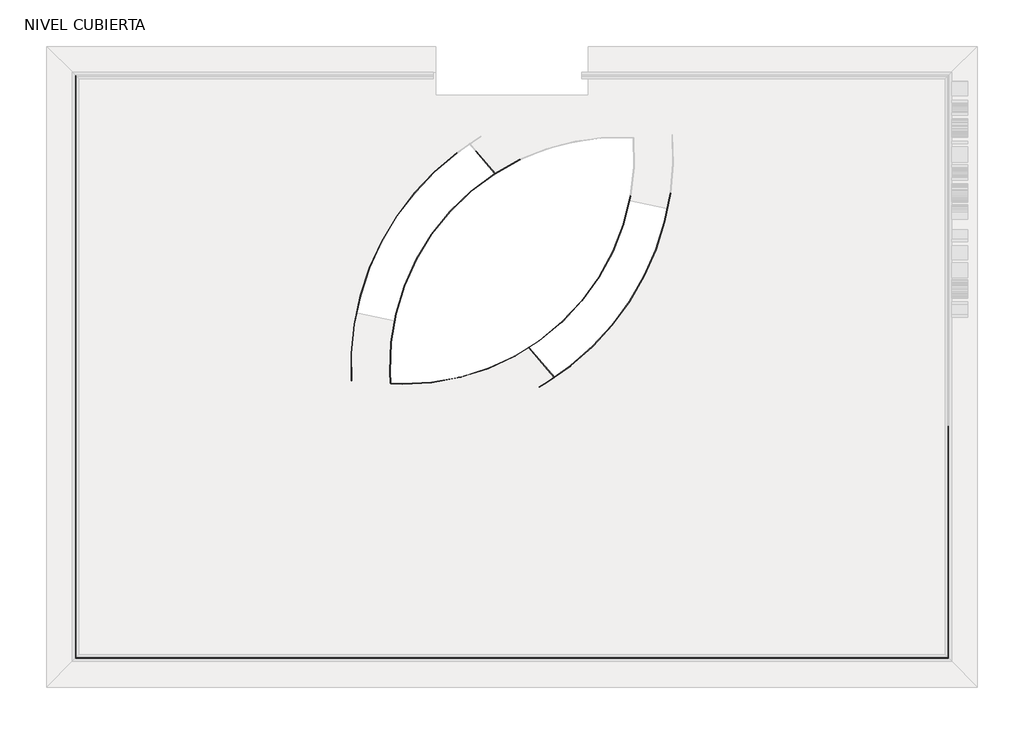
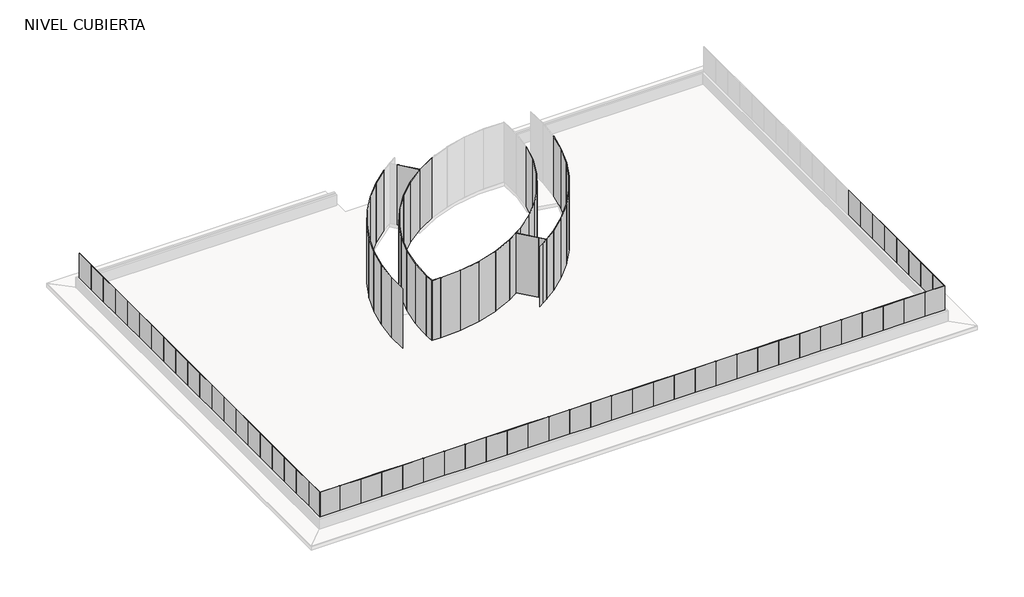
# One storey, part 1 of 2: 123 plates.
"""IFC4 building model written with IfcOpenShell, lengths in millimetres."""

from ifc_helpers import new_model, si_unit, origin, place, context, project, spatial, transform, mapped, element, save
from components import system_panel_5ccbd7a3, system_panel_2392ed23, system_panel_94a1ebf7, system_panel_a79ef9cc, system_panel_f2b8ddce, system_panel_82a90451, system_panel_d16f8cfc, system_panel_5bddcc3b

model = new_model("IFC4")

# Units and contexts
model_context = context("Model", 3, world=origin())
ifc_project = project(units=[si_unit("LENGTHUNIT", "METRE", prefix="MILLI")], contexts=[model_context])

# Site, building, storey
site = spatial("IfcSite", under=ifc_project)
building = spatial("IfcBuilding", under=site)
storey = spatial("IfcBuildingStorey", under=building, Name="NIVEL CUBIERTA", Elevation=13380.0)

# Plates
placement = place(None, origin())
system_panel_shape = system_panel_5ccbd7a3(model_context)
element("IfcPlate", 1, ObjectType="System Panel : CR-BARANDA", at=placement, inside=storey, context=model_context, shape_type="MappedRepresentation", body=[
    mapped(system_panel_shape, transform((-7633.5934748, -7416.0860759, 13880.0), x_axis=(-1.0, 0.0, 0.0), y_axis=(0.0, -1.0, 0.0), z_axis=(0.0, 0.0, 1.0))),
])
element("IfcPlate", 2, ObjectType="System Panel : CR-BARANDA", at=placement, inside=storey, context=model_context, shape_type="MappedRepresentation", body=[
    mapped(system_panel_shape, transform((-6733.5934748, -7416.0860759, 13880.0), x_axis=(-1.0, 0.0, 0.0), y_axis=(0.0, -1.0, 0.0), z_axis=(0.0, 0.0, 1.0))),
])
element("IfcPlate", 3, ObjectType="System Panel : CR-BARANDA", at=placement, inside=storey, context=model_context, shape_type="MappedRepresentation", body=[
    mapped(system_panel_shape, transform((-8533.5934748, -7416.0860759, 13880.0), x_axis=(-1.0, 0.0, 0.0), y_axis=(0.0, -1.0, 0.0), z_axis=(0.0, 0.0, 1.0))),
])
element("IfcPlate", 4, ObjectType="System Panel : CR-BARANDA", at=placement, inside=storey, context=model_context, shape_type="MappedRepresentation", body=[
    mapped(system_panel_shape, transform((-5833.5934748, -7416.0860759, 13880.0), x_axis=(-1.0, 0.0, 0.0), y_axis=(0.0, -1.0, 0.0), z_axis=(0.0, 0.0, 1.0))),
])
element("IfcPlate", 5, ObjectType="System Panel : CR-BARANDA", at=placement, inside=storey, context=model_context, shape_type="MappedRepresentation", body=[
    mapped(system_panel_shape, transform((-9433.5934748, -7416.0860759, 13880.0), x_axis=(-1.0, 0.0, 0.0), y_axis=(0.0, -1.0, 0.0), z_axis=(0.0, 0.0, 1.0))),
])
element("IfcPlate", 6, ObjectType="System Panel : CR-BARANDA", at=placement, inside=storey, context=model_context, shape_type="MappedRepresentation", body=[
    mapped(system_panel_shape, transform((-4933.5934748, -7416.0860759, 13880.0), x_axis=(-1.0, 0.0, 0.0), y_axis=(0.0, -1.0, 0.0), z_axis=(0.0, 0.0, 1.0))),
])
element("IfcPlate", 7, ObjectType="System Panel : CR-BARANDA", at=placement, inside=storey, context=model_context, shape_type="MappedRepresentation", body=[
    mapped(system_panel_shape, transform((-10333.5934748, -7416.0860759, 13880.0), x_axis=(-1.0, 0.0, 0.0), y_axis=(0.0, -1.0, 0.0), z_axis=(0.0, 0.0, 1.0))),
])
element("IfcPlate", 8, ObjectType="System Panel : CR-BARANDA", at=placement, inside=storey, context=model_context, shape_type="MappedRepresentation", body=[
    mapped(system_panel_shape, transform((-4033.5934748, -7416.0860759, 13880.0), x_axis=(-1.0, 0.0, 0.0), y_axis=(0.0, -1.0, 0.0), z_axis=(0.0, 0.0, 1.0))),
])
element("IfcPlate", 9, ObjectType="System Panel : CR-BARANDA", at=placement, inside=storey, context=model_context, shape_type="MappedRepresentation", body=[
    mapped(system_panel_shape, transform((-11233.5934748, -7416.0860759, 13880.0), x_axis=(-1.0, 0.0, 0.0), y_axis=(0.0, -1.0, 0.0), z_axis=(0.0, 0.0, 1.0))),
])
element("IfcPlate", 10, ObjectType="System Panel : CR-BARANDA", at=placement, inside=storey, context=model_context, shape_type="MappedRepresentation", body=[
    mapped(system_panel_shape, transform((-3133.5934748, -7416.0860759, 13880.0), x_axis=(-1.0, 0.0, 0.0), y_axis=(0.0, -1.0, 0.0), z_axis=(0.0, 0.0, 1.0))),
])
element("IfcPlate", 11, ObjectType="System Panel : CR-BARANDA", at=placement, inside=storey, context=model_context, shape_type="MappedRepresentation", body=[
    mapped(system_panel_shape, transform((-12133.5934748, -7416.0860759, 13880.0), x_axis=(-1.0, 0.0, 0.0), y_axis=(0.0, -1.0, 0.0), z_axis=(0.0, 0.0, 1.0))),
])
element("IfcPlate", 12, ObjectType="System Panel : CR-BARANDA", at=placement, inside=storey, context=model_context, shape_type="MappedRepresentation", body=[
    mapped(system_panel_shape, transform((-2233.5934748, -7416.0860759, 13880.0), x_axis=(-1.0, 0.0, 0.0), y_axis=(0.0, -1.0, 0.0), z_axis=(0.0, 0.0, 1.0))),
])
element("IfcPlate", 13, ObjectType="System Panel : CR-BARANDA", at=placement, inside=storey, context=model_context, shape_type="MappedRepresentation", body=[
    mapped(system_panel_shape, transform((-13033.5934748, -7416.0860759, 13880.0), x_axis=(-1.0, 0.0, 0.0), y_axis=(0.0, -1.0, 0.0), z_axis=(0.0, 0.0, 1.0))),
])
element("IfcPlate", 14, ObjectType="System Panel : CR-BARANDA", at=placement, inside=storey, context=model_context, shape_type="MappedRepresentation", body=[
    mapped(system_panel_shape, transform((-1333.5934748, -7416.0860759, 13880.0), x_axis=(-1.0, 0.0, 0.0), y_axis=(0.0, -1.0, 0.0), z_axis=(0.0, 0.0, 1.0))),
])
element("IfcPlate", 15, ObjectType="System Panel : CR-BARANDA", at=placement, inside=storey, context=model_context, shape_type="MappedRepresentation", body=[
    mapped(system_panel_shape, transform((-13933.5934748, -7416.0860759, 13880.0), x_axis=(-1.0, 0.0, 0.0), y_axis=(0.0, -1.0, 0.0), z_axis=(0.0, 0.0, 1.0))),
])
element("IfcPlate", 16, ObjectType="System Panel : CR-BARANDA", at=placement, inside=storey, context=model_context, shape_type="MappedRepresentation", body=[
    mapped(system_panel_shape, transform((-433.5934748, -7416.0860759, 13880.0), x_axis=(-1.0, 0.0, 0.0), y_axis=(0.0, -1.0, 0.0), z_axis=(0.0, 0.0, 1.0))),
])
element("IfcPlate", 17, ObjectType="System Panel : CR-BARANDA", at=placement, inside=storey, context=model_context, shape_type="MappedRepresentation", body=[
    mapped(system_panel_shape, transform((-14833.5934748, -7416.0860759, 13880.0), x_axis=(-1.0, 0.0, 0.0), y_axis=(0.0, -1.0, 0.0), z_axis=(0.0, 0.0, 1.0))),
])
element("IfcPlate", 18, ObjectType="System Panel : CR-BARANDA", at=placement, inside=storey, context=model_context, shape_type="MappedRepresentation", body=[
    mapped(system_panel_shape, transform((466.4065252, -7416.0860759, 13880.0), x_axis=(-1.0, 0.0, 0.0), y_axis=(0.0, -1.0, 0.0), z_axis=(0.0, 0.0, 1.0))),
])
element("IfcPlate", 19, ObjectType="System Panel : CR-BARANDA", at=placement, inside=storey, context=model_context, shape_type="MappedRepresentation", body=[
    mapped(system_panel_shape, transform((-15733.5934748, -7416.0860759, 13880.0), x_axis=(-1.0, 0.0, 0.0), y_axis=(0.0, -1.0, 0.0), z_axis=(0.0, 0.0, 1.0))),
])
element("IfcPlate", 20, ObjectType="System Panel : CR-BARANDA", at=placement, inside=storey, context=model_context, shape_type="MappedRepresentation", body=[
    mapped(system_panel_shape, transform((1366.4065252, -7416.0860759, 13880.0), x_axis=(-1.0, 0.0, 0.0), y_axis=(0.0, -1.0, 0.0), z_axis=(0.0, 0.0, 1.0))),
])
element("IfcPlate", 21, ObjectType="System Panel : CR-BARANDA", at=placement, inside=storey, context=model_context, shape_type="MappedRepresentation", body=[
    mapped(system_panel_shape, transform((-16633.5934748, -7416.0860759, 13880.0), x_axis=(-1.0, 0.0, 0.0), y_axis=(0.0, -1.0, 0.0), z_axis=(0.0, 0.0, 1.0))),
])
element("IfcPlate", 22, ObjectType="System Panel : CR-BARANDA", at=placement, inside=storey, context=model_context, shape_type="MappedRepresentation", body=[
    mapped(system_panel_shape, transform((2266.4065252, -7416.0860759, 13880.0), x_axis=(-1.0, 0.0, 0.0), y_axis=(0.0, -1.0, 0.0), z_axis=(0.0, 0.0, 1.0))),
])
element("IfcPlate", 23, ObjectType="System Panel : CR-BARANDA", at=placement, inside=storey, context=model_context, shape_type="MappedRepresentation", body=[
    mapped(system_panel_shape, transform((-17533.5934748, -7416.0860759, 13880.0), x_axis=(-1.0, 0.0, 0.0), y_axis=(0.0, -1.0, 0.0), z_axis=(0.0, 0.0, 1.0))),
])
element("IfcPlate", 24, ObjectType="System Panel : CR-BARANDA", at=placement, inside=storey, context=model_context, shape_type="MappedRepresentation", body=[
    mapped(system_panel_shape, transform((3166.4065252, -7416.0860759, 13880.0), x_axis=(-1.0, 0.0, 0.0), y_axis=(0.0, -1.0, 0.0), z_axis=(0.0, 0.0, 1.0))),
])
element("IfcPlate", 25, ObjectType="System Panel : CR-BARANDA", at=placement, inside=storey, context=model_context, shape_type="MappedRepresentation", body=[
    mapped(system_panel_shape, transform((-18433.5934748, -7416.0860759, 13880.0), x_axis=(-1.0, 0.0, 0.0), y_axis=(0.0, -1.0, 0.0), z_axis=(0.0, 0.0, 1.0))),
])
element("IfcPlate", 26, ObjectType="System Panel : CR-BARANDA", at=placement, inside=storey, context=model_context, shape_type="MappedRepresentation", body=[
    mapped(system_panel_shape, transform((4066.4065252, -7416.0860759, 13880.0), x_axis=(-1.0, 0.0, 0.0), y_axis=(0.0, -1.0, 0.0), z_axis=(0.0, 0.0, 1.0))),
])
element("IfcPlate", 27, ObjectType="System Panel : CR-BARANDA", at=placement, inside=storey, context=model_context, shape_type="MappedRepresentation", body=[
    mapped(system_panel_shape, transform((-19333.5934748, -7416.0860759, 13880.0), x_axis=(-1.0, 0.0, 0.0), y_axis=(0.0, -1.0, 0.0), z_axis=(0.0, 0.0, 1.0))),
])
element("IfcPlate", 28, ObjectType="System Panel : CR-BARANDA", at=placement, inside=storey, context=model_context, shape_type="MappedRepresentation", body=[
    mapped(system_panel_shape, transform((4966.4065252, -7416.0860759, 13880.0), x_axis=(-1.0, 0.0, 0.0), y_axis=(0.0, -1.0, 0.0), z_axis=(0.0, 0.0, 1.0))),
])
element("IfcPlate", 29, ObjectType="System Panel : CR-BARANDA", at=placement, inside=storey, context=model_context, shape_type="MappedRepresentation", body=[
    mapped(system_panel_shape, transform((6266.4065252, -716.0860763, 13880.0), x_axis=(0.0, -1.0, 0.0), y_axis=(1.0, 0.0, 0.0), z_axis=(0.0, 0.0, 1.0))),
])
element("IfcPlate", 30, ObjectType="System Panel : CR-BARANDA", at=placement, inside=storey, context=model_context, shape_type="MappedRepresentation", body=[
    mapped(system_panel_shape, transform((6266.4065252, -1616.0860763, 13880.0), x_axis=(0.0, -1.0, 0.0), y_axis=(1.0, 0.0, 0.0), z_axis=(0.0, 0.0, 1.0))),
])
element("IfcPlate", 31, ObjectType="System Panel : CR-BARANDA", at=placement, inside=storey, context=model_context, shape_type="MappedRepresentation", body=[
    mapped(system_panel_shape, transform((6266.4065252, -2516.0860763, 13880.0), x_axis=(0.0, -1.0, 0.0), y_axis=(1.0, 0.0, 0.0), z_axis=(0.0, 0.0, 1.0))),
])
element("IfcPlate", 32, ObjectType="System Panel : CR-BARANDA", at=placement, inside=storey, context=model_context, shape_type="MappedRepresentation", body=[
    mapped(system_panel_shape, transform((6266.4065252, -3416.0860763, 13880.0), x_axis=(0.0, -1.0, 0.0), y_axis=(1.0, 0.0, 0.0), z_axis=(0.0, 0.0, 1.0))),
])
element("IfcPlate", 33, ObjectType="System Panel : CR-BARANDA", at=placement, inside=storey, context=model_context, shape_type="MappedRepresentation", body=[
    mapped(system_panel_shape, transform((6266.4065252, -4316.0860763, 13880.0), x_axis=(0.0, -1.0, 0.0), y_axis=(1.0, 0.0, 0.0), z_axis=(0.0, 0.0, 1.0))),
])
element("IfcPlate", 34, ObjectType="System Panel : CR-BARANDA", at=placement, inside=storey, context=model_context, shape_type="MappedRepresentation", body=[
    mapped(system_panel_shape, transform((6266.4065252, -5216.0860763, 13880.0), x_axis=(0.0, -1.0, 0.0), y_axis=(1.0, 0.0, 0.0), z_axis=(0.0, 0.0, 1.0))),
])
element("IfcPlate", 35, ObjectType="System Panel : CR-BARANDA", at=placement, inside=storey, context=model_context, shape_type="MappedRepresentation", body=[
    mapped(system_panel_shape, transform((6266.4065252, -6116.0860763, 13880.0), x_axis=(0.0, -1.0, 0.0), y_axis=(1.0, 0.0, 0.0), z_axis=(0.0, 0.0, 1.0))),
])
element("IfcPlate", 36, ObjectType="System Panel : CR-BARANDA", at=placement, inside=storey, context=model_context, shape_type="MappedRepresentation", body=[
    mapped(system_panel_shape, transform((-20633.5934748, 10083.9139239, 13880.0), x_axis=(0.0, -1.0, 0.0), y_axis=(1.0, 0.0, 0.0), z_axis=(0.0, 0.0, 1.0))),
])
element("IfcPlate", 37, ObjectType="System Panel : CR-BARANDA", at=placement, inside=storey, context=model_context, shape_type="MappedRepresentation", body=[
    mapped(system_panel_shape, transform((-20633.5934748, 9183.9139237, 13880.0), x_axis=(0.0, -1.0, 0.0), y_axis=(1.0, 0.0, 0.0), z_axis=(0.0, 0.0, 1.0))),
])
element("IfcPlate", 38, ObjectType="System Panel : CR-BARANDA", at=placement, inside=storey, context=model_context, shape_type="MappedRepresentation", body=[
    mapped(system_panel_shape, transform((-20633.5934748, 8283.9139237, 13880.0), x_axis=(0.0, -1.0, 0.0), y_axis=(1.0, 0.0, 0.0), z_axis=(0.0, 0.0, 1.0))),
])
element("IfcPlate", 39, ObjectType="System Panel : CR-BARANDA", at=placement, inside=storey, context=model_context, shape_type="MappedRepresentation", body=[
    mapped(system_panel_shape, transform((-20633.5934748, 7383.9139237, 13880.0), x_axis=(0.0, -1.0, 0.0), y_axis=(1.0, 0.0, 0.0), z_axis=(0.0, 0.0, 1.0))),
])
element("IfcPlate", 40, ObjectType="System Panel : CR-BARANDA", at=placement, inside=storey, context=model_context, shape_type="MappedRepresentation", body=[
    mapped(system_panel_shape, transform((-20633.5934748, 6483.9139237, 13880.0), x_axis=(0.0, -1.0, 0.0), y_axis=(1.0, 0.0, 0.0), z_axis=(0.0, 0.0, 1.0))),
])
element("IfcPlate", 41, ObjectType="System Panel : CR-BARANDA", at=placement, inside=storey, context=model_context, shape_type="MappedRepresentation", body=[
    mapped(system_panel_shape, transform((-20633.5934748, 5583.9139237, 13880.0), x_axis=(0.0, -1.0, 0.0), y_axis=(1.0, 0.0, 0.0), z_axis=(0.0, 0.0, 1.0))),
])
element("IfcPlate", 42, ObjectType="System Panel : CR-BARANDA", at=placement, inside=storey, context=model_context, shape_type="MappedRepresentation", body=[
    mapped(system_panel_shape, transform((-20633.5934748, 4683.9139237, 13880.0), x_axis=(0.0, -1.0, 0.0), y_axis=(1.0, 0.0, 0.0), z_axis=(0.0, 0.0, 1.0))),
])
element("IfcPlate", 43, ObjectType="System Panel : CR-BARANDA", at=placement, inside=storey, context=model_context, shape_type="MappedRepresentation", body=[
    mapped(system_panel_shape, transform((-20633.5934748, 3783.9139237, 13880.0), x_axis=(0.0, -1.0, 0.0), y_axis=(1.0, 0.0, 0.0), z_axis=(0.0, 0.0, 1.0))),
])
element("IfcPlate", 44, ObjectType="System Panel : CR-BARANDA", at=placement, inside=storey, context=model_context, shape_type="MappedRepresentation", body=[
    mapped(system_panel_shape, transform((-20633.5934748, 2883.9139237, 13880.0), x_axis=(0.0, -1.0, 0.0), y_axis=(1.0, 0.0, 0.0), z_axis=(0.0, 0.0, 1.0))),
])
element("IfcPlate", 45, ObjectType="System Panel : CR-BARANDA", at=placement, inside=storey, context=model_context, shape_type="MappedRepresentation", body=[
    mapped(system_panel_shape, transform((-20633.5934748, 1983.9139237, 13880.0), x_axis=(0.0, -1.0, 0.0), y_axis=(1.0, 0.0, 0.0), z_axis=(0.0, 0.0, 1.0))),
])
element("IfcPlate", 46, ObjectType="System Panel : CR-BARANDA", at=placement, inside=storey, context=model_context, shape_type="MappedRepresentation", body=[
    mapped(system_panel_shape, transform((-20633.5934748, 1083.9139237, 13880.0), x_axis=(0.0, -1.0, 0.0), y_axis=(1.0, 0.0, 0.0), z_axis=(0.0, 0.0, 1.0))),
])
element("IfcPlate", 47, ObjectType="System Panel : CR-BARANDA", at=placement, inside=storey, context=model_context, shape_type="MappedRepresentation", body=[
    mapped(system_panel_shape, transform((-20633.5934748, 183.9139237, 13880.0), x_axis=(0.0, -1.0, 0.0), y_axis=(1.0, 0.0, 0.0), z_axis=(0.0, 0.0, 1.0))),
])
element("IfcPlate", 48, ObjectType="System Panel : CR-BARANDA", at=placement, inside=storey, context=model_context, shape_type="MappedRepresentation", body=[
    mapped(system_panel_shape, transform((-20633.5934748, -716.0860763, 13880.0), x_axis=(0.0, -1.0, 0.0), y_axis=(1.0, 0.0, 0.0), z_axis=(0.0, 0.0, 1.0))),
])
element("IfcPlate", 49, ObjectType="System Panel : CR-BARANDA", at=placement, inside=storey, context=model_context, shape_type="MappedRepresentation", body=[
    mapped(system_panel_shape, transform((-20633.5934748, -1616.0860763, 13880.0), x_axis=(0.0, -1.0, 0.0), y_axis=(1.0, 0.0, 0.0), z_axis=(0.0, 0.0, 1.0))),
])
element("IfcPlate", 50, ObjectType="System Panel : CR-BARANDA", at=placement, inside=storey, context=model_context, shape_type="MappedRepresentation", body=[
    mapped(system_panel_shape, transform((-20633.5934748, -2516.0860763, 13880.0), x_axis=(0.0, -1.0, 0.0), y_axis=(1.0, 0.0, 0.0), z_axis=(0.0, 0.0, 1.0))),
])
element("IfcPlate", 51, ObjectType="System Panel : CR-BARANDA", at=placement, inside=storey, context=model_context, shape_type="MappedRepresentation", body=[
    mapped(system_panel_shape, transform((-20633.5934748, -3416.0860763, 13880.0), x_axis=(0.0, -1.0, 0.0), y_axis=(1.0, 0.0, 0.0), z_axis=(0.0, 0.0, 1.0))),
])
element("IfcPlate", 52, ObjectType="System Panel : CR-BARANDA", at=placement, inside=storey, context=model_context, shape_type="MappedRepresentation", body=[
    mapped(system_panel_shape, transform((-20633.5934748, -4316.0860763, 13880.0), x_axis=(0.0, -1.0, 0.0), y_axis=(1.0, 0.0, 0.0), z_axis=(0.0, 0.0, 1.0))),
])
element("IfcPlate", 53, ObjectType="System Panel : CR-BARANDA", at=placement, inside=storey, context=model_context, shape_type="MappedRepresentation", body=[
    mapped(system_panel_shape, transform((-20633.5934748, -5216.0860763, 13880.0), x_axis=(0.0, -1.0, 0.0), y_axis=(1.0, 0.0, 0.0), z_axis=(0.0, 0.0, 1.0))),
])
element("IfcPlate", 54, ObjectType="System Panel : CR-BARANDA", at=placement, inside=storey, context=model_context, shape_type="MappedRepresentation", body=[
    mapped(system_panel_shape, transform((-20633.5934748, -6116.0860763, 13880.0), x_axis=(0.0, -1.0, 0.0), y_axis=(1.0, 0.0, 0.0), z_axis=(0.0, 0.0, 1.0))),
])
system_panel_2_shape = system_panel_2392ed23(model_context)
element("IfcPlate", 55, ObjectType="System Panel : CR-BARANDA", at=placement, inside=storey, context=model_context, shape_type="MappedRepresentation", body=[
    mapped(system_panel_2_shape, transform((5841.4065252, -7416.0860759, 13880.0), x_axis=(-1.0, 0.0, 0.0), y_axis=(0.0, -1.0, 0.0), z_axis=(0.0, 0.0, 1.0))),
])
element("IfcPlate", 56, ObjectType="System Panel : CR-BARANDA", at=placement, inside=storey, context=model_context, shape_type="MappedRepresentation", body=[
    mapped(system_panel_2_shape, transform((-20208.5934748, -7416.0860759, 13880.0), x_axis=(-1.0, 0.0, 0.0), y_axis=(0.0, -1.0, 0.0), z_axis=(0.0, 0.0, 1.0))),
])
element("IfcPlate", 57, ObjectType="System Panel : CR-BARANDA", at=placement, inside=storey, context=model_context, shape_type="MappedRepresentation", body=[
    mapped(system_panel_2_shape, transform((6266.4065252, -6991.0860761, 13880.0), x_axis=(0.0, -1.0, 0.0), y_axis=(1.0, 0.0, 0.0), z_axis=(0.0, 0.0, 1.0))),
])
system_panel_3_shape = system_panel_94a1ebf7(model_context)
element("IfcPlate", 58, ObjectType="System Panel : CR-BARANDA", at=placement, inside=storey, context=model_context, shape_type="MappedRepresentation", body=[
    mapped(system_panel_3_shape, transform((-20633.5934748, -6991.0860761, 13880.0), x_axis=(0.0, -1.0, 0.0), y_axis=(1.0, 0.0, 0.0), z_axis=(0.0, 0.0, 1.0))),
])
system_panel_4_shape = system_panel_a79ef9cc(model_context)
element("IfcPlate", 59, ObjectType="System Panel : CR-BARANDA", at=placement, inside=storey, context=model_context, shape_type="MappedRepresentation", body=[
    mapped(system_panel_4_shape, transform((-5977.2482203, 1344.4572301, 13380.0), x_axis=(0.6464171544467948, -0.7629841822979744, 0.0), y_axis=(0.7629841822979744, 0.6464171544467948, 0.0), z_axis=(0.0, 0.0, 1.0))),
])
system_panel_5_shape = system_panel_f2b8ddce(model_context)
element("IfcPlate", 60, ObjectType="System Panel : CR-BARANDA", at=placement, inside=storey, context=model_context, shape_type="MappedRepresentation", body=[
    mapped(system_panel_5_shape, transform((-12137.6471122, 1554.5809106, 13380.0), x_axis=(0.004029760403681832, -0.9999918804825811, 0.0), y_axis=(0.9999918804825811, 0.004029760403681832, 0.0), z_axis=(0.0, 0.0, 1.0))),
])
system_panel_6_shape = system_panel_82a90451(model_context)
element("IfcPlate", 61, ObjectType="System Panel : CR-BARANDA", at=placement, inside=storey, context=model_context, shape_type="MappedRepresentation", body=[
    mapped(system_panel_6_shape, transform((-6230.2657655, 1004.3095919, 13380.0), x_axis=(-0.8579965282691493, -0.5136554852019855, 0.0), y_axis=(0.5136554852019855, -0.8579965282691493, 0.0), z_axis=(0.0, 0.0, 1.0))),
])
system_panel_7_shape = system_panel_d16f8cfc(model_context)
element("IfcPlate", 62, ObjectType="System Panel : CR-BARANDA", at=placement, inside=storey, context=model_context, shape_type="MappedRepresentation", body=[
    mapped(system_panel_7_shape, transform((-7331.2063026, 7728.1154532, 13380.0), x_axis=(-0.8730074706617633, -0.4877068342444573, 0.0), y_axis=(0.4877068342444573, -0.8730074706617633, 0.0), z_axis=(0.0, 0.0, 1.0))),
])
element("IfcPlate", 63, ObjectType="System Panel : CR-BARANDA", at=placement, inside=storey, context=model_context, shape_type="MappedRepresentation", body=[
    mapped(system_panel_7_shape, transform((-8085.741745, 7240.9048287, 13380.0), x_axis=(-0.8037379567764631, -0.5949834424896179, 0.0), y_axis=(0.5949834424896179, -0.8037379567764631, 0.0), z_axis=(0.0, 0.0, 1.0))),
])
element("IfcPlate", 64, ObjectType="System Panel : CR-BARANDA", at=placement, inside=storey, context=model_context, shape_type="MappedRepresentation", body=[
    mapped(system_panel_7_shape, transform((-8772.0368429, 6661.5112103, 13380.0), x_axis=(-0.7213622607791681, -0.6925579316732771, 0.0), y_axis=(0.6925579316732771, -0.7213622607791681, 0.0), z_axis=(0.0, 0.0, 1.0))),
])
element("IfcPlate", 65, ObjectType="System Panel : CR-BARANDA", at=placement, inside=storey, context=model_context, shape_type="MappedRepresentation", body=[
    mapped(system_panel_7_shape, transform((-9378.9005004, 5999.3825011, 13380.0), x_axis=(-0.6272236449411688, -0.7788391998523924, 0.0), y_axis=(0.7788391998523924, -0.6272236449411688, 0.0), z_axis=(0.0, 0.0, 1.0))),
])
element("IfcPlate", 66, ObjectType="System Panel : CR-BARANDA", at=placement, inside=storey, context=model_context, shape_type="MappedRepresentation", body=[
    mapped(system_panel_7_shape, transform((-9896.4368735, 5265.3157269, 13380.0), x_axis=(-0.5228571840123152, -0.8524202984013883, 0.0), y_axis=(0.8524202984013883, -0.5228571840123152, 0.0), z_axis=(0.0, 0.0, 1.0))),
])
element("IfcPlate", 67, ObjectType="System Panel : CR-BARANDA", at=placement, inside=storey, context=model_context, shape_type="MappedRepresentation", body=[
    mapped(system_panel_7_shape, transform((-10316.2067363, 4471.2809741, 13380.0), x_axis=(-0.40996473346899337, -0.9121013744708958, 0.0), y_axis=(0.9121013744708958, -0.40996473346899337, 0.0), z_axis=(0.0, 0.0, 1.0))),
])
element("IfcPlate", 68, ObjectType="System Panel : CR-BARANDA", at=placement, inside=storey, context=model_context, shape_type="MappedRepresentation", body=[
    mapped(system_panel_7_shape, transform((-10631.3650965, 3630.2261992, 13380.0), x_axis=(-0.2903871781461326, -0.9569092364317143, 0.0), y_axis=(0.9569092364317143, -0.2903871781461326, 0.0), z_axis=(0.0, 0.0, 1.0))),
])
element("IfcPlate", 69, ObjectType="System Panel : CR-BARANDA", at=placement, inside=storey, context=model_context, shape_type="MappedRepresentation", body=[
    mapped(system_panel_7_shape, transform((-10836.7728129, 2755.8660923, 13380.0), x_axis=(-0.16607441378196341, -0.9861132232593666, 0.0), y_axis=(0.9861132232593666, -0.16607441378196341, 0.0), z_axis=(0.0, 0.0, 1.0))),
])
element("IfcPlate", 70, ObjectType="System Panel : CR-BARANDA", at=placement, inside=storey, context=model_context, shape_type="MappedRepresentation", body=[
    mapped(system_panel_7_shape, transform((-10929.0803971, 1862.4584383, 13380.0), x_axis=(-0.03905355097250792, -0.9992371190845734, 0.0), y_axis=(0.9992371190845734, -0.03905355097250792, 0.0), z_axis=(0.0, 0.0, 1.0))),
])
element("IfcPlate", 71, ObjectType="System Panel : CR-BARANDA", at=placement, inside=storey, context=model_context, shape_type="MappedRepresentation", body=[
    mapped(system_panel_7_shape, transform((-7331.2063026, 7728.1154532, 13380.0), x_axis=(-0.8730074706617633, -0.4877068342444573, 0.0), y_axis=(0.4877068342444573, -0.8730074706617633, 0.0), z_axis=(0.0, 0.0, 1.0))),
])
element("IfcPlate", 72, ObjectType="System Panel : CR-BARANDA", at=placement, inside=storey, context=model_context, shape_type="MappedRepresentation", body=[
    mapped(system_panel_7_shape, transform((-8085.741745, 7240.9048287, 13380.0), x_axis=(-0.8037379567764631, -0.5949834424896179, 0.0), y_axis=(0.5949834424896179, -0.8037379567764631, 0.0), z_axis=(0.0, 0.0, 1.0))),
])
element("IfcPlate", 73, ObjectType="System Panel : CR-BARANDA", at=placement, inside=storey, context=model_context, shape_type="MappedRepresentation", body=[
    mapped(system_panel_7_shape, transform((-8772.0368429, 6661.5112103, 13380.0), x_axis=(-0.7213622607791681, -0.6925579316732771, 0.0), y_axis=(0.6925579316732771, -0.7213622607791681, 0.0), z_axis=(0.0, 0.0, 1.0))),
])
element("IfcPlate", 74, ObjectType="System Panel : CR-BARANDA", at=placement, inside=storey, context=model_context, shape_type="MappedRepresentation", body=[
    mapped(system_panel_7_shape, transform((-9378.9005004, 5999.3825011, 13380.0), x_axis=(-0.6272236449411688, -0.7788391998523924, 0.0), y_axis=(0.7788391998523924, -0.6272236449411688, 0.0), z_axis=(0.0, 0.0, 1.0))),
])
element("IfcPlate", 75, ObjectType="System Panel : CR-BARANDA", at=placement, inside=storey, context=model_context, shape_type="MappedRepresentation", body=[
    mapped(system_panel_7_shape, transform((-9896.4368735, 5265.3157269, 13380.0), x_axis=(-0.5228571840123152, -0.8524202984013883, 0.0), y_axis=(0.8524202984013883, -0.5228571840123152, 0.0), z_axis=(0.0, 0.0, 1.0))),
])
element("IfcPlate", 76, ObjectType="System Panel : CR-BARANDA", at=placement, inside=storey, context=model_context, shape_type="MappedRepresentation", body=[
    mapped(system_panel_7_shape, transform((-10316.2067363, 4471.2809741, 13380.0), x_axis=(-0.40996473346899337, -0.9121013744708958, 0.0), y_axis=(0.9121013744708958, -0.40996473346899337, 0.0), z_axis=(0.0, 0.0, 1.0))),
])
element("IfcPlate", 77, ObjectType="System Panel : CR-BARANDA", at=placement, inside=storey, context=model_context, shape_type="MappedRepresentation", body=[
    mapped(system_panel_7_shape, transform((-10631.3650965, 3630.2261992, 13380.0), x_axis=(-0.2903871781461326, -0.9569092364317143, 0.0), y_axis=(0.9569092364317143, -0.2903871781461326, 0.0), z_axis=(0.0, 0.0, 1.0))),
])
element("IfcPlate", 78, ObjectType="System Panel : CR-BARANDA", at=placement, inside=storey, context=model_context, shape_type="MappedRepresentation", body=[
    mapped(system_panel_7_shape, transform((-10836.7728129, 2755.8660923, 13380.0), x_axis=(-0.16607441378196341, -0.9861132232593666, 0.0), y_axis=(0.9861132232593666, -0.16607441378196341, 0.0), z_axis=(0.0, 0.0, 1.0))),
])
element("IfcPlate", 79, ObjectType="System Panel : CR-BARANDA", at=placement, inside=storey, context=model_context, shape_type="MappedRepresentation", body=[
    mapped(system_panel_7_shape, transform((-10929.0803971, 1862.4584383, 13380.0), x_axis=(-0.03905355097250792, -0.9992371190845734, 0.0), y_axis=(0.9992371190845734, -0.03905355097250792, 0.0), z_axis=(0.0, 0.0, 1.0))),
])
element("IfcPlate", 80, ObjectType="System Panel : CR-BARANDA", at=placement, inside=storey, context=model_context, shape_type="MappedRepresentation", body=[
    mapped(system_panel_7_shape, transform((-9232.3284679, 7864.8499826, 13380.0), x_axis=(-0.7621838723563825, -0.647360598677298, 0.0), y_axis=(0.647360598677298, -0.7621838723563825, 0.0), z_axis=(0.0, 0.0, 1.0))),
])
element("IfcPlate", 81, ObjectType="System Panel : CR-BARANDA", at=placement, inside=storey, context=model_context, shape_type="MappedRepresentation", body=[
    mapped(system_panel_7_shape, transform((-9884.5118943, 7246.5898013, 13380.0), x_axis=(-0.6871126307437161, -0.7265509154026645, 0.0), y_axis=(0.7265509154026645, -0.6871126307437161, 0.0), z_axis=(0.0, 0.0, 1.0))),
])
element("IfcPlate", 82, ObjectType="System Panel : CR-BARANDA", at=placement, inside=storey, context=model_context, shape_type="MappedRepresentation", body=[
    mapped(system_panel_7_shape, transform((-10465.4496133, 6560.9512375, 13380.0), x_axis=(-0.603860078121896, -0.7970903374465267, 0.0), y_axis=(0.7970903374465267, -0.603860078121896, 0.0), z_axis=(0.0, 0.0, 1.0))),
])
element("IfcPlate", 83, ObjectType="System Panel : CR-BARANDA", at=placement, inside=storey, context=model_context, shape_type="MappedRepresentation", body=[
    mapped(system_panel_7_shape, transform((-10968.2245171, 5816.0980509, 13380.0), x_axis=(-0.513417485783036, -0.8581389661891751, 0.0), y_axis=(0.8581389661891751, -0.513417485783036, 0.0), z_axis=(0.0, 0.0, 1.0))),
])
element("IfcPlate", 84, ObjectType="System Panel : CR-BARANDA", at=placement, inside=storey, context=model_context, shape_type="MappedRepresentation", body=[
    mapped(system_panel_7_shape, transform((-11386.8501666, 5020.8990575, 13380.0), x_axis=(-0.4168617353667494, -0.908969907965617, 0.0), y_axis=(0.908969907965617, -0.4168617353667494, 0.0), z_axis=(0.0, 0.0, 1.0))),
])
element("IfcPlate", 85, ObjectType="System Panel : CR-BARANDA", at=placement, inside=storey, context=model_context, shape_type="MappedRepresentation", body=[
    mapped(system_panel_7_shape, transform((-11716.342071, 4184.8225308, 13380.0), x_axis=(-0.3153424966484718, -0.9489779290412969, 0.0), y_axis=(0.9489779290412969, -0.3153424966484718, 0.0), z_axis=(0.0, 0.0, 1.0))),
])
element("IfcPlate", 86, ObjectType="System Panel : CR-BARANDA", at=placement, inside=storey, context=model_context, shape_type="MappedRepresentation", body=[
    mapped(system_panel_7_shape, transform((-11952.7770369, 3317.8234649, 13380.0), x_axis=(-0.21006853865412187, -0.9776866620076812, 0.0), y_axis=(0.9776866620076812, -0.21006853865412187, 0.0), z_axis=(0.0, 0.0, 1.0))),
])
element("IfcPlate", 87, ObjectType="System Panel : CR-BARANDA", at=placement, inside=storey, context=model_context, shape_type="MappedRepresentation", body=[
    mapped(system_panel_7_shape, transform((-6368.0099616, 1805.6842035, 13380.0), x_axis=(0.6464171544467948, -0.7629841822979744, 0.0), y_axis=(0.7629841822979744, 0.6464171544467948, 0.0), z_axis=(0.0, 0.0, 1.0))),
])
element("IfcPlate", 88, ObjectType="System Panel : CR-BARANDA", at=placement, inside=storey, context=model_context, shape_type="MappedRepresentation", body=[
    mapped(system_panel_7_shape, transform((-7999.1769881, 7862.1436446, 13380.0), x_axis=(-0.6464171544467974, 0.7629841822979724, 0.0), y_axis=(-0.7629841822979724, -0.6464171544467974, 0.0), z_axis=(0.0, 0.0, 1.0))),
])
element("IfcPlate", 89, ObjectType="System Panel : CR-BARANDA", at=placement, inside=storey, context=model_context, shape_type="MappedRepresentation", body=[
    mapped(system_panel_7_shape, transform((-12093.339881, 2430.225042, 13380.0), x_axis=(-0.10229333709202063, -0.9947542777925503, 0.0), y_axis=(0.9947542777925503, -0.10229333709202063, 0.0), z_axis=(0.0, 0.0, 1.0))),
])
system_panel_8_shape = system_panel_5bddcc3b(model_context)
element("IfcPlate", 90, ObjectType="System Panel : CR-BARANDA", at=placement, inside=storey, context=model_context, shape_type="MappedRepresentation", body=[
    mapped(system_panel_8_shape, transform((-10937.3624941, 1230.0346436, 13380.0), x_axis=(0.05077508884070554, -0.9987101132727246, 0.0), y_axis=(0.9987101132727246, 0.05077508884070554, 0.0), z_axis=(0.0, 0.0, 1.0))),
])
element("IfcPlate", 91, ObjectType="System Panel : CR-BARANDA", at=placement, inside=storey, context=model_context, shape_type="MappedRepresentation", body=[
    mapped(system_panel_8_shape, transform((-10937.3624941, 1230.0346436, 13380.0), x_axis=(0.05077508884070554, -0.9987101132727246, 0.0), y_axis=(0.9987101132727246, 0.05077508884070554, 0.0), z_axis=(0.0, 0.0, 1.0))),
])
element("IfcPlate", 92, ObjectType="System Panel : CR-BARANDA", at=placement, inside=storey, context=model_context, shape_type="MappedRepresentation", body=[
    mapped(system_panel_7_shape, transform((-3638.8664144, 6389.7580529, 13380.0), x_axis=(-0.2403190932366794, -0.9706939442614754, 0.0), y_axis=(0.9706939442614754, -0.2403190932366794, 0.0), z_axis=(0.0, 0.0, 1.0))),
])
element("IfcPlate", 93, ObjectType="System Panel : CR-BARANDA", at=placement, inside=storey, context=model_context, shape_type="MappedRepresentation", body=[
    mapped(system_panel_7_shape, transform((-3909.9377002, 5533.4763911, 13380.0), x_axis=(-0.3620615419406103, -0.9321541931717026, 0.0), y_axis=(0.9321541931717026, -0.3620615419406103, 0.0), z_axis=(0.0, 0.0, 1.0))),
])
element("IfcPlate", 94, ObjectType="System Panel : CR-BARANDA", at=placement, inside=storey, context=model_context, shape_type="MappedRepresentation", body=[
    mapped(system_panel_7_shape, transform((-4287.9204035, 4718.720598, 13380.0), x_axis=(-0.4779000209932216, -0.87841423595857, 0.0), y_axis=(0.87841423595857, -0.4779000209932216, 0.0), z_axis=(0.0, 0.0, 1.0))),
])
element("IfcPlate", 95, ObjectType="System Panel : CR-BARANDA", at=placement, inside=storey, context=model_context, shape_type="MappedRepresentation", body=[
    mapped(system_panel_7_shape, transform((-4766.6509357, 3958.7765185, 13380.0), x_axis=(-0.5859456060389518, -0.8103503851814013, 0.0), y_axis=(0.8103503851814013, -0.5859456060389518, 0.0), z_axis=(0.0, 0.0, 1.0))),
])
element("IfcPlate", 96, ObjectType="System Panel : CR-BARANDA", at=placement, inside=storey, context=model_context, shape_type="MappedRepresentation", body=[
    mapped(system_panel_7_shape, transform((-5338.32286, 3266.0362082, 13380.0), x_axis=(-0.6844364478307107, -0.7290725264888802, 0.0), y_axis=(0.7290725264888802, -0.6844364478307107, 0.0), z_axis=(0.0, 0.0, 1.0))),
])
element("IfcPlate", 97, ObjectType="System Panel : CR-BARANDA", at=placement, inside=storey, context=model_context, shape_type="MappedRepresentation", body=[
    mapped(system_panel_7_shape, transform((-5993.6141873, 2651.7958622, 13380.0), x_axis=(-0.7717665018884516, -0.6359060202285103, 0.0), y_axis=(0.6359060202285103, -0.7717665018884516, 0.0), z_axis=(0.0, 0.0, 1.0))),
])
element("IfcPlate", 98, ObjectType="System Panel : CR-BARANDA", at=placement, inside=storey, context=model_context, shape_type="MappedRepresentation", body=[
    mapped(system_panel_7_shape, transform((-6721.8393861, 2126.0716129, 13380.0), x_axis=(-0.8465117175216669, -0.5323700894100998, 0.0), y_axis=(0.5323700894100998, -0.8465117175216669, 0.0), z_axis=(0.0, 0.0, 1.0))),
])
element("IfcPlate", 99, ObjectType="System Panel : CR-BARANDA", at=placement, inside=storey, context=model_context, shape_type="MappedRepresentation", body=[
    mapped(system_panel_7_shape, transform((-7511.1236256, 1697.4362017, 13380.0), x_axis=(-0.9074532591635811, -0.42015304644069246, 0.0), y_axis=(0.42015304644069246, -0.9074532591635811, 0.0), z_axis=(0.0, 0.0, 1.0))),
])
element("IfcPlate", 100, ObjectType="System Panel : CR-BARANDA", at=placement, inside=storey, context=model_context, shape_type="MappedRepresentation", body=[
    mapped(system_panel_7_shape, transform((-8348.5964138, 1372.8791877, 13380.0), x_axis=(-0.9535973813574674, -0.301084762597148, 0.0), y_axis=(0.301084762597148, -0.9535973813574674, 0.0), z_axis=(0.0, 0.0, 1.0))),
])
element("IfcPlate", 101, ObjectType="System Panel : CR-BARANDA", at=placement, inside=storey, context=model_context, shape_type="MappedRepresentation", body=[
    mapped(system_panel_7_shape, transform((-9220.6014704, 1157.6929714, 13380.0), x_axis=(-0.9841916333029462, -0.1771068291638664, 0.0), y_axis=(0.1771068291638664, -0.9841916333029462, 0.0), z_axis=(0.0, 0.0, 1.0))),
])
element("IfcPlate", 102, ObjectType="System Panel : CR-BARANDA", at=placement, inside=storey, context=model_context, shape_type="MappedRepresentation", body=[
    mapped(system_panel_7_shape, transform((-10112.9194133, 1055.3864947, 13380.0), x_axis=(-0.9987371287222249, -0.0502408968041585, 0.0), y_axis=(0.0502408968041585, -0.9987371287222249, 0.0), z_axis=(0.0, 0.0, 1.0))),
])
element("IfcPlate", 103, ObjectType="System Panel : CR-BARANDA", at=placement, inside=storey, context=model_context, shape_type="MappedRepresentation", body=[
    mapped(system_panel_7_shape, transform((-3638.8664144, 6389.7580529, 13380.0), x_axis=(-0.2403190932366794, -0.9706939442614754, 0.0), y_axis=(0.9706939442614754, -0.2403190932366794, 0.0), z_axis=(0.0, 0.0, 1.0))),
])
element("IfcPlate", 104, ObjectType="System Panel : CR-BARANDA", at=placement, inside=storey, context=model_context, shape_type="MappedRepresentation", body=[
    mapped(system_panel_7_shape, transform((-3909.9377002, 5533.4763911, 13380.0), x_axis=(-0.3620615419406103, -0.9321541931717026, 0.0), y_axis=(0.9321541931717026, -0.3620615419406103, 0.0), z_axis=(0.0, 0.0, 1.0))),
])
element("IfcPlate", 105, ObjectType="System Panel : CR-BARANDA", at=placement, inside=storey, context=model_context, shape_type="MappedRepresentation", body=[
    mapped(system_panel_7_shape, transform((-4287.9204035, 4718.720598, 13380.0), x_axis=(-0.4779000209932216, -0.87841423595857, 0.0), y_axis=(0.87841423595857, -0.4779000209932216, 0.0), z_axis=(0.0, 0.0, 1.0))),
])
element("IfcPlate", 106, ObjectType="System Panel : CR-BARANDA", at=placement, inside=storey, context=model_context, shape_type="MappedRepresentation", body=[
    mapped(system_panel_7_shape, transform((-4766.6509357, 3958.7765185, 13380.0), x_axis=(-0.5859456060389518, -0.8103503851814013, 0.0), y_axis=(0.8103503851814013, -0.5859456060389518, 0.0), z_axis=(0.0, 0.0, 1.0))),
])
element("IfcPlate", 107, ObjectType="System Panel : CR-BARANDA", at=placement, inside=storey, context=model_context, shape_type="MappedRepresentation", body=[
    mapped(system_panel_7_shape, transform((-5338.32286, 3266.0362082, 13380.0), x_axis=(-0.6844364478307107, -0.7290725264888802, 0.0), y_axis=(0.7290725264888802, -0.6844364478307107, 0.0), z_axis=(0.0, 0.0, 1.0))),
])
element("IfcPlate", 108, ObjectType="System Panel : CR-BARANDA", at=placement, inside=storey, context=model_context, shape_type="MappedRepresentation", body=[
    mapped(system_panel_7_shape, transform((-5993.6141873, 2651.7958622, 13380.0), x_axis=(-0.7717665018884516, -0.6359060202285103, 0.0), y_axis=(0.6359060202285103, -0.7717665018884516, 0.0), z_axis=(0.0, 0.0, 1.0))),
])
element("IfcPlate", 109, ObjectType="System Panel : CR-BARANDA", at=placement, inside=storey, context=model_context, shape_type="MappedRepresentation", body=[
    mapped(system_panel_7_shape, transform((-6721.8393861, 2126.0716129, 13380.0), x_axis=(-0.8465117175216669, -0.5323700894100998, 0.0), y_axis=(0.5323700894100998, -0.8465117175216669, 0.0), z_axis=(0.0, 0.0, 1.0))),
])
element("IfcPlate", 110, ObjectType="System Panel : CR-BARANDA", at=placement, inside=storey, context=model_context, shape_type="MappedRepresentation", body=[
    mapped(system_panel_7_shape, transform((-7511.1236256, 1697.4362017, 13380.0), x_axis=(-0.9074532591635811, -0.42015304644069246, 0.0), y_axis=(0.42015304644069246, -0.9074532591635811, 0.0), z_axis=(0.0, 0.0, 1.0))),
])
element("IfcPlate", 111, ObjectType="System Panel : CR-BARANDA", at=placement, inside=storey, context=model_context, shape_type="MappedRepresentation", body=[
    mapped(system_panel_7_shape, transform((-8348.5964138, 1372.8791877, 13380.0), x_axis=(-0.9535973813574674, -0.301084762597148, 0.0), y_axis=(0.301084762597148, -0.9535973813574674, 0.0), z_axis=(0.0, 0.0, 1.0))),
])
element("IfcPlate", 112, ObjectType="System Panel : CR-BARANDA", at=placement, inside=storey, context=model_context, shape_type="MappedRepresentation", body=[
    mapped(system_panel_7_shape, transform((-9220.6014704, 1157.6929714, 13380.0), x_axis=(-0.9841916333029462, -0.1771068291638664, 0.0), y_axis=(0.1771068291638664, -0.9841916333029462, 0.0), z_axis=(0.0, 0.0, 1.0))),
])
element("IfcPlate", 113, ObjectType="System Panel : CR-BARANDA", at=placement, inside=storey, context=model_context, shape_type="MappedRepresentation", body=[
    mapped(system_panel_7_shape, transform((-10112.9194133, 1055.3864947, 13380.0), x_axis=(-0.9987371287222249, -0.0502408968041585, 0.0), y_axis=(0.0502408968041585, -0.9987371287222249, 0.0), z_axis=(0.0, 0.0, 1.0))),
])
element("IfcPlate", 114, ObjectType="System Panel : CR-BARANDA", at=placement, inside=storey, context=model_context, shape_type="MappedRepresentation", body=[
    mapped(system_panel_7_shape, transform((-2928.0936181, 4763.2121942, 13380.0), x_axis=(-0.4027422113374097, -0.9153134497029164, 0.0), y_axis=(0.9153134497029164, -0.4027422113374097, 0.0), z_axis=(0.0, 0.0, 1.0))),
])
element("IfcPlate", 115, ObjectType="System Panel : CR-BARANDA", at=placement, inside=storey, context=model_context, shape_type="MappedRepresentation", body=[
    mapped(system_panel_7_shape, transform((-3334.360547, 3961.6287263, 13380.0), x_axis=(-0.5000731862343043, -0.8659831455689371, 0.0), y_axis=(0.8659831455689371, -0.5000731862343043, 0.0), z_axis=(0.0, 0.0, 1.0))),
])
element("IfcPlate", 116, ObjectType="System Panel : CR-BARANDA", at=placement, inside=storey, context=model_context, shape_type="MappedRepresentation", body=[
    mapped(system_panel_7_shape, transform((-3825.5459317, 3209.0825209, 13380.0), x_axis=(-0.5914498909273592, -0.8063417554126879, 0.0), y_axis=(0.8063417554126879, -0.5914498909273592, 0.0), z_axis=(0.0, 0.0, 1.0))),
])
element("IfcPlate", 117, ObjectType="System Panel : CR-BARANDA", at=placement, inside=storey, context=model_context, shape_type="MappedRepresentation", body=[
    mapped(system_panel_7_shape, transform((-4395.8013273, 2514.5339932, 13380.0), x_axis=(-0.6757843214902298, -0.7370994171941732, 0.0), y_axis=(0.7370994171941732, -0.6757843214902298, 0.0), z_axis=(0.0, 0.0, 1.0))),
])
element("IfcPlate", 118, ObjectType="System Panel : CR-BARANDA", at=placement, inside=storey, context=model_context, shape_type="MappedRepresentation", body=[
    mapped(system_panel_7_shape, transform((-5038.3368182, 1886.252992, 13380.0), x_axis=(-0.7520723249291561, -0.6590805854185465, 0.0), y_axis=(0.6590805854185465, -0.7520723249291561, 0.0), z_axis=(0.0, 0.0, 1.0))),
])
element("IfcPlate", 119, ObjectType="System Panel : CR-BARANDA", at=placement, inside=storey, context=model_context, shape_type="MappedRepresentation", body=[
    mapped(system_panel_7_shape, transform((-5745.5018643, 1331.7203321, 13380.0), x_axis=(-0.8194055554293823, -0.5732142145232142, 0.0), y_axis=(0.5732142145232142, -0.8194055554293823, 0.0), z_axis=(0.0, 0.0, 1.0))),
])
element("IfcPlate", 120, ObjectType="System Panel : CR-BARANDA", at=placement, inside=storey, context=model_context, shape_type="MappedRepresentation", body=[
    mapped(system_panel_7_shape, transform((-2611.5824831, 5604.2886324, 13380.0), x_axis=(-0.3006158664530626, -0.9537453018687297, 0.0), y_axis=(0.9537453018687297, -0.3006158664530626, 0.0), z_axis=(0.0, 0.0, 1.0))),
])
element("IfcPlate", 121, ObjectType="System Panel : CR-BARANDA", at=placement, inside=storey, context=model_context, shape_type="MappedRepresentation", body=[
    mapped(system_panel_7_shape, transform((-2388.595776, 6474.8435141, 13380.0), x_axis=(-0.1949101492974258, -0.9808211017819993, 0.0), y_axis=(0.9808211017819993, -0.1949101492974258, 0.0), z_axis=(0.0, 0.0, 1.0))),
])
element("IfcPlate", 122, ObjectType="System Panel : CR-BARANDA", at=placement, inside=storey, context=model_context, shape_type="MappedRepresentation", body=[
    mapped(system_panel_8_shape, transform((-10745.2108072, 1040.0228218, 13380.0), x_axis=(-0.9992160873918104, 0.039588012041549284, 0.0), y_axis=(-0.039588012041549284, -0.9992160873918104, 0.0), z_axis=(0.0, 0.0, 1.0))),
])
element("IfcPlate", 123, ObjectType="System Panel : CR-BARANDA", at=placement, inside=storey, context=model_context, shape_type="MappedRepresentation", body=[
    mapped(system_panel_8_shape, transform((-10745.2108072, 1040.0228218, 13380.0), x_axis=(-0.9992160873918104, 0.039588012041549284, 0.0), y_axis=(-0.039588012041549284, -0.9992160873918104, 0.0), z_axis=(0.0, 0.0, 1.0))),
])

save(model, "model.ifc")
